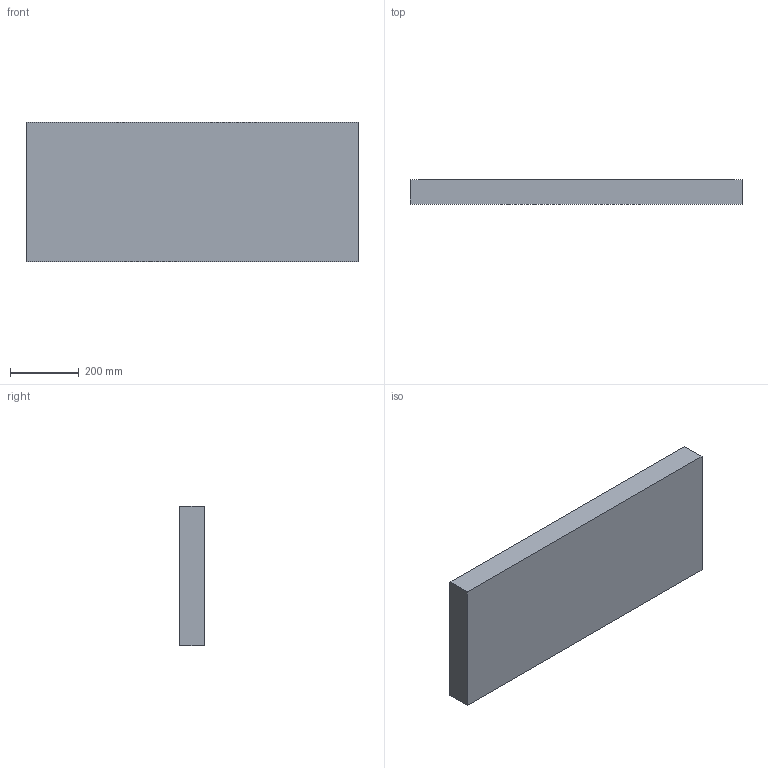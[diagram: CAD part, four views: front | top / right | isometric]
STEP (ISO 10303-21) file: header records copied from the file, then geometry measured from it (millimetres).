
FILE_DESCRIPTION (( 'STEP AP214' ), '1' );
FILE_NAME ('1700E - 932 TOP PID 6-12-2025.STEP', '2025-06-13T06:30:15', ( '' ), ( '' ), 'SwSTEP 2.0', 'SolidWorks 2021', '' );
FILE_SCHEMA (( 'AUTOMOTIVE_DESIGN' ));
Length unit declared in the file: inch
Products named in the file (1): 1700E - 932 TOP PID 6-12-2025
Bounding box: 964.44 x 70.87 x 403.86 mm (x, y, z)
Volume: 13167093.1 mm3; surface area: 1066483.7 mm2
Topology: 1 solids, 1 shells, 27 faces, 64 edges, 40 vertices
Faces by surface type: plane 11, bspline 8, cylinder 8
Entity records: 910 total; most frequent: CARTESIAN_POINT 328, ORIENTED_EDGE 128, DIRECTION 96, EDGE_CURVE 64, VERTEX_POINT 40, AXIS2_PLACEMENT_3D 32, VECTOR 32, LINE 32
